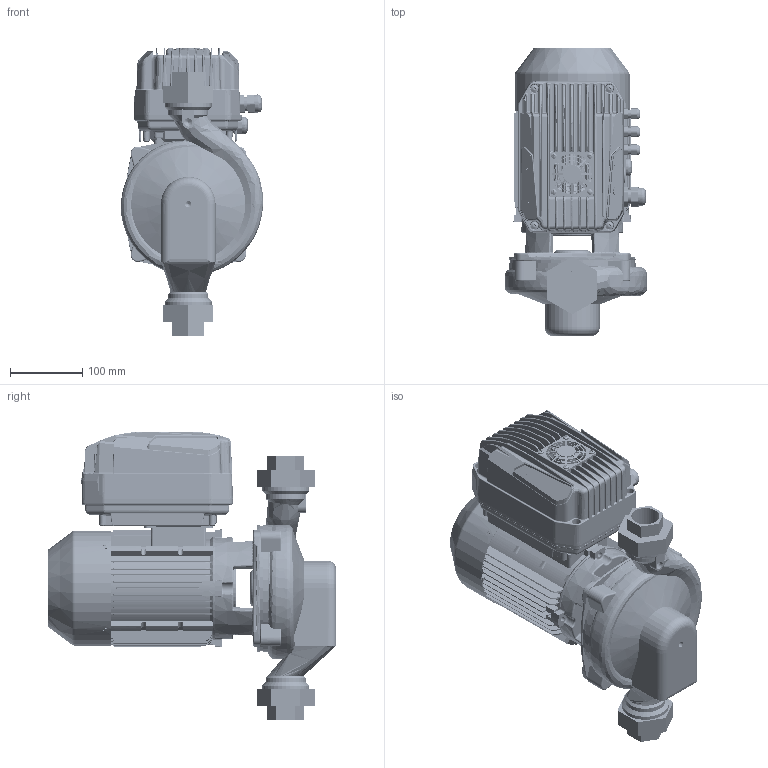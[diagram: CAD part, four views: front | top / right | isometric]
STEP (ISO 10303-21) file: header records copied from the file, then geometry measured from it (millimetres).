
FILE_DESCRIPTION(('STEP AP214'),'1');
FILE_NAME('export.stp','2022-09-19T06:22:07',(' '),(' '),'Spatial InterOp 3D',' ',' ');
FILE_SCHEMA(('AUTOMOTIVE_DESIGN { 1 0 10303 214 1 1 1 1 }'));
Length unit declared in the file: millimetre
Products named in the file (44): W_AE332MDKP80; V_TLAEAP3233L40A; V_PPAE33; V_AdapMida205_407; 210588; DIN_7985-M5X8; 160029; 160001; V_MKP80-1_N13; 160141; 160137; 160138; 160139; 160140; Koura_Ale_M5; Plug_Blind_M20; Sealing_Plug_M20; DIN_7985-M5X12; 480032; 480031___; 160133; MIDA_180deg; BASE_MIDA_NASTEC_89; 3005020100_AF0_157; PRT0001; PRT0002; PRT0003; PRT0005; PRT0006; PRT0007; V4-25--_-_U7687_PZ_AF0_5; V4-25--_-_U7687_PZ_AF1_5; V4-25--_-_U7687_PZ_AF2_5; V4-25--_-_U7687_PZ_AF3_5; V5-30--_-_U7687_PZ_AF0_5; V5-30--_-_U7687_PZ_AF1_5; V5-30--_-_U7687_PZ_AF2_5; V5-30--_-_U7687_PZ_5; 2001300200_32; TASTIERA_MIDA_2_44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
Assembly tree (47 placements, depth 4):
  W_AE332MDKP80
    V_TLAEAP3233L40A
    V_PPAE33
    V_AdapMida205_407
      210588
      DIN_7985-M5X8  x2
    V_MKP80-1_N13
      160029
        160001
      160141
        160137
        160138
        160139
        160140
        Koura_Ale_M5
        Plug_Blind_M20
        Sealing_Plug_M20
        DIN_7985-M5X8
        DIN_7985-M5X12  x4
      480032
        480031___
      160133
    Mida205
      MIDA_180deg
        BASE_MIDA_NASTEC_89
        3005020100_AF0_157
        PRT0001
        PRT0002
        PRT0003
        PRT0005
        PRT0006
        PRT0007
        V4-25--_-_U7687_PZ_AF0_5
        V4-25--_-_U7687_PZ_AF1_5
        V4-25--_-_U7687_PZ_AF2_5
        V4-25--_-_U7687_PZ_AF3_5
        V5-30--_-_U7687_PZ_AF0_5
        V5-30--_-_U7687_PZ_AF1_5
        V5-30--_-_U7687_PZ_AF2_5
        V5-30--_-_U7687_PZ_5
        2001300200_32
        TASTIERA_MIDA_2_44
        ETICHETTA_MIDA_9
        TAPPO_PRESSACAVO_M20_5
Bounding box: 197.63 x 400 x 400 mm (x, y, z)
Volume: 3381322.7 mm3; surface area: 1282638 mm2
Topology: 39 solids, 40 shells, 5783 faces, 15042 edges, 9343 vertices
Faces by surface type: plane 2129, cylinder 1720, bspline 1288, cone 400, torus 234, sphere 12
Entity records: 300424 total; most frequent: CARTESIAN_POINT 140749, ORIENTED_EDGE 29470, DIRECTION 20851, EDGE_CURVE 14739, VERTEX_POINT 9216, AXIS2_PLACEMENT_3D 7497, EDGE_LOOP 6170, LINE 5857
